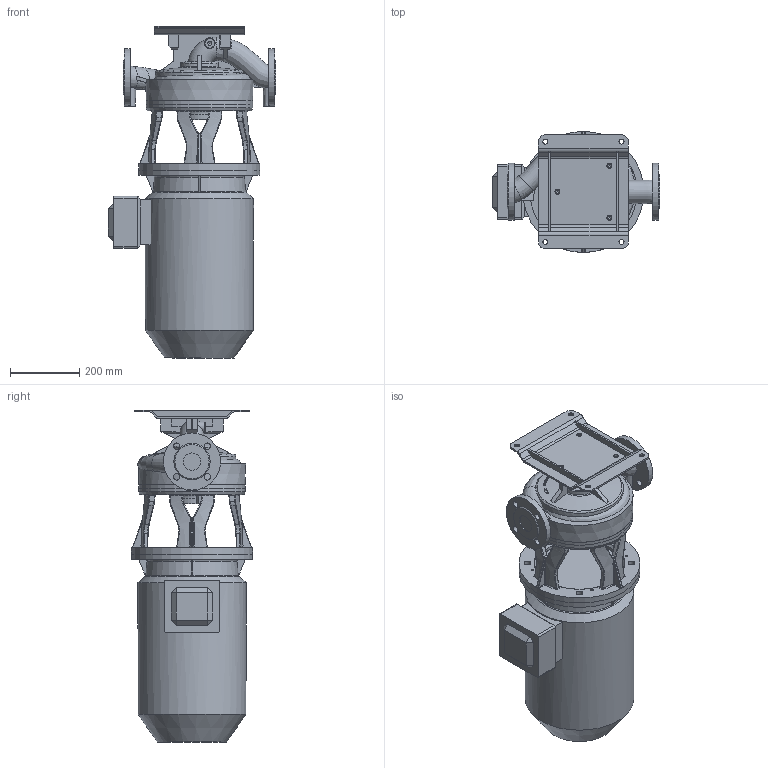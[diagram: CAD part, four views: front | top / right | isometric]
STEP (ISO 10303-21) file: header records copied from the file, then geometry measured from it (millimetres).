
FILE_DESCRIPTION (( 'STEP AP203' ), '1' );
FILE_NAME ('KI50-220_2_18,5kW.STEP', '2024-07-30T06:59:56', ( '' ), ( '' ), 'SwSTEP 2.0', 'SolidWorks 2023', '' );
FILE_SCHEMA (( 'CONFIG_CONTROL_DESIGN' ));
Length unit declared in the file: millimetre
Products named in the file (11): 230031; 230531; 230572; 220532; 220531; KI50-220_2_18,5kW; 230033; 230034; 230569; 230530; 440186_solid
Assembly tree (11 placements, depth 3):
  KI50-220_2_18,5kW
    440186_solid
    230531
      230530
    230569
      230572
    220532
      220531
    230034
      230031
      230033  x2
Bounding box: 483 x 350 x 959.45 mm (x, y, z)
Volume: 54642388 mm3; surface area: 1996680.1 mm2
Topology: 7 solids, 7 shells, 968 faces, 2470 edges, 1515 vertices
Faces by surface type: bspline 334, plane 317, cylinder 186, cone 76, torus 53, sphere 2
Full cylindrical faces by diameter (mm): 6 x2, 6.8 x8, 10 x4, 10.2 x11, 11.445 x1, 11.8 x3, 14 x16, 14.5 x7, 19 x16, 50 x2, 225 x1, 243 x1, 250 x1, 255 x2, 308 x2, 313 x1, 350 x2
Entity records: 85803 total; most frequent: CARTESIAN_POINT 65164, ORIENTED_EDGE 4498, DIRECTION 3119, EDGE_CURVE 2249, VERTEX_POINT 1452, AXIS2_PLACEMENT_3D 1255, EDGE_LOOP 1225, FACE_OUTER_BOUND 1046
